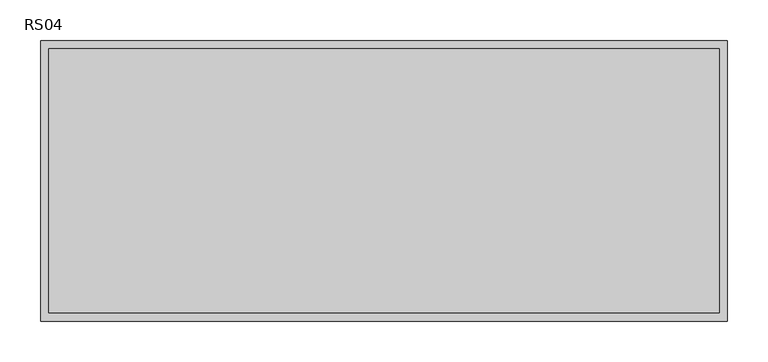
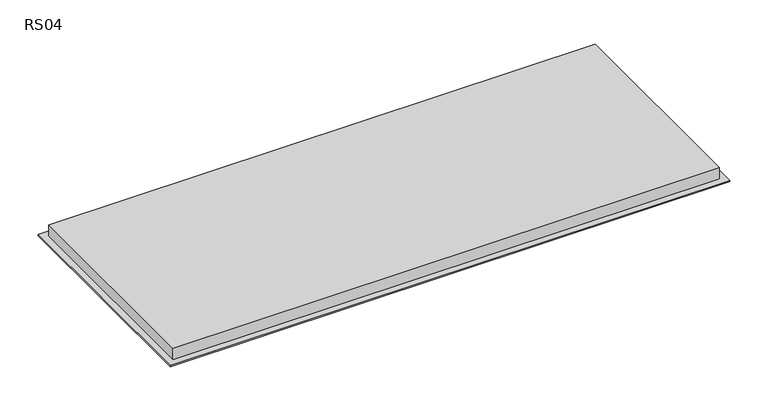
"""IFC4 building model written with IfcOpenShell, lengths in millimetres: air terminal geometry, ZYR_03.06.04.01 Reixa Sostre Sobrepressio : RS04."""

from ifc_helpers import new_model, si_unit, origin, origin_with_axes, place, context, project, spatial, polyline, outline, extrude, source, transform, mapped, element, save


def rs04_c0286579(model_context):
    return source(origin(), model_context, "Body", "SweptSolid", [
        extrude(outline(polyline([(412.5, 162.5), (412.5, -162.5), (-412.5, -162.5), (-412.5, 162.5), (412.5, 162.5)])), origin_with_axes(), (0.0, 0.0, 1.0), 20.0),
        extrude(outline(polyline([(422.5, 172.5), (422.5, -172.5), (-422.5, -172.5), (-422.5, 172.5), (422.5, 172.5)]), holes=[polyline([(412.5, 162.5), (-412.5, 162.5), (-412.5, -162.5), (412.5, -162.5), (412.5, 162.5)])]), origin_with_axes(), (0.0, 0.0, 1.0), 2.0),
    ])


if __name__ == "__main__":
    model = new_model("IFC4")
    model_context = context("Model", 3, world=origin())
    ifc_project = project(units=[si_unit("LENGTHUNIT", "METRE", prefix="MILLI")], contexts=[model_context])
    site = spatial("IfcSite", under=ifc_project)
    building = spatial("IfcBuilding", under=site)
    placement = place(None, origin())
    rs04_shape = rs04_c0286579(model_context)
    element("IfcAirTerminal", 1, ObjectType="ZYR_03.06.04.01 Reixa Sostre Sobrepressio : RS04", at=placement, inside=building, context=model_context, shape_type="MappedRepresentation", body=[
        mapped(rs04_shape, transform((0.0, 0.0, 0.0), x_axis=(1.0, 0.0, 0.0), y_axis=(0.0, 1.0, 0.0), z_axis=(0.0, 0.0, 1.0))),
    ])
    save(model, "model.ifc")
